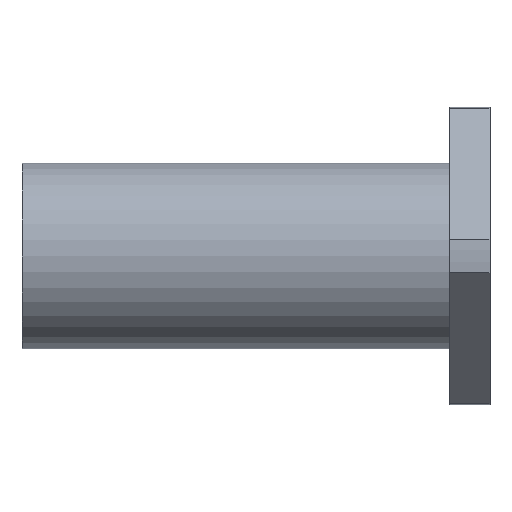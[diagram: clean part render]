
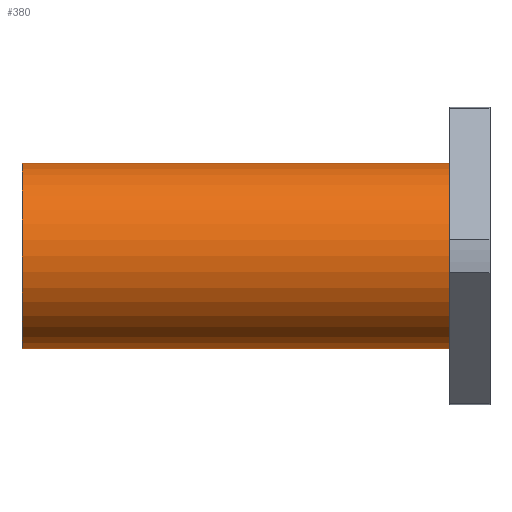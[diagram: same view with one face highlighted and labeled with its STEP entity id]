
A CAD part, front view. The second image highlights one B-rep face of the part: STEP entity #380.
In plain terms, the highlighted cylindrical face has radius 30 mm (diameter 60 mm), a full revolution.
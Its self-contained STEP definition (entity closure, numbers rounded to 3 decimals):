
#83=ORIENTED_EDGE('',*,*,#171,.T.);
#84=ORIENTED_EDGE('',*,*,#172,.F.);
#171=EDGE_CURVE('',#215,#215,#245,.T.);
#172=EDGE_CURVE('',#216,#216,#246,.T.);
#215=VERTEX_POINT('',#638);
#216=VERTEX_POINT('',#640);
#245=CIRCLE('',#433,30.);
#246=CIRCLE('',#434,30.);
#270=EDGE_LOOP('',(#83));
#271=EDGE_LOOP('',(#84));
#320=FACE_BOUND('',#270,.T.);
#321=FACE_BOUND('',#271,.T.);
#362=CYLINDRICAL_SURFACE('',#432,30.);
#380=ADVANCED_FACE('',(#320,#321),#362,.T.);
#432=AXIS2_PLACEMENT_3D('',#636,#514,#515);
#433=AXIS2_PLACEMENT_3D('',#637,#516,#517);
#434=AXIS2_PLACEMENT_3D('',#639,#518,#519);
#514=DIRECTION('',(-1.,0.,0.));
#515=DIRECTION('',(0.,0.,1.));
#516=DIRECTION('',(1.,0.,0.));
#517=DIRECTION('',(0.,0.,-1.));
#518=DIRECTION('',(1.,0.,0.));
#519=DIRECTION('',(0.,0.,-1.));
#636=CARTESIAN_POINT('',(75.5,0.,0.));
#637=CARTESIAN_POINT('',(-75.5,0.,0.));
#638=CARTESIAN_POINT('',(-75.5,0.,-30.));
#639=CARTESIAN_POINT('',(62.5,0.,0.));
#640=CARTESIAN_POINT('',(62.5,0.,-30.));
